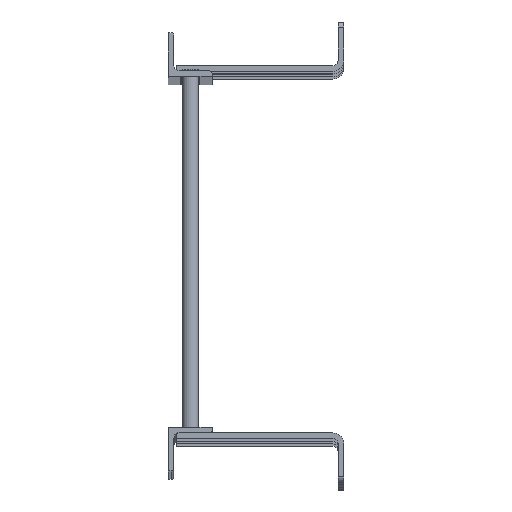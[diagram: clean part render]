
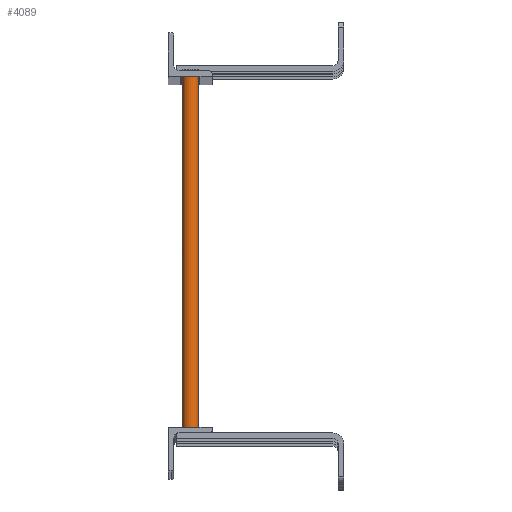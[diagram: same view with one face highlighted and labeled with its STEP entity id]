
A CAD part, top view. The second image highlights one B-rep face of the part: STEP entity #4089.
In plain terms, the highlighted cylindrical face has radius 9.525 mm (diameter 19.05 mm), a full revolution.
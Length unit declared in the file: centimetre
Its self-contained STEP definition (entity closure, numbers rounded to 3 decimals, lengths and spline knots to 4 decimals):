
#841=FACE_BOUND('',#1458,.T.);
#1070=FACE_OUTER_BOUND('',#1457,.T.);
#1457=EDGE_LOOP('',(#3501));
#1458=EDGE_LOOP('',(#3502));
#1683=CIRCLE('',#4565,0.9525);
#1684=CIRCLE('',#4566,0.9525);
#2045=VERTEX_POINT('',#6817);
#2046=VERTEX_POINT('',#6819);
#2531=EDGE_CURVE('',#2045,#2045,#1683,.T.);
#2532=EDGE_CURVE('',#2046,#2046,#1684,.T.);
#3501=ORIENTED_EDGE('',*,*,#2531,.T.);
#3502=ORIENTED_EDGE('',*,*,#2532,.F.);
#3608=CYLINDRICAL_SURFACE('',#4564,0.9525);
#4089=ADVANCED_FACE('',(#1070,#841),#3608,.T.);
#4564=AXIS2_PLACEMENT_3D('',#6816,#5733,#5734);
#4565=AXIS2_PLACEMENT_3D('',#6818,#5735,#5736);
#4566=AXIS2_PLACEMENT_3D('',#6820,#5737,#5738);
#5733=DIRECTION('center_axis',(0.,-1.,0.));
#5734=DIRECTION('ref_axis',(1.,0.,0.));
#5735=DIRECTION('center_axis',(0.,1.,0.));
#5736=DIRECTION('ref_axis',(1.,0.,0.));
#5737=DIRECTION('center_axis',(0.,1.,0.));
#5738=DIRECTION('ref_axis',(1.,0.,0.));
#6816=CARTESIAN_POINT('Origin',(2.54,0.7938,552.45));
#6817=CARTESIAN_POINT('',(1.5875,-41.1162,552.45));
#6818=CARTESIAN_POINT('Origin',(2.54,-41.1162,552.45));
#6819=CARTESIAN_POINT('',(1.5875,0.7938,552.45));
#6820=CARTESIAN_POINT('Origin',(2.54,0.7938,552.45));
